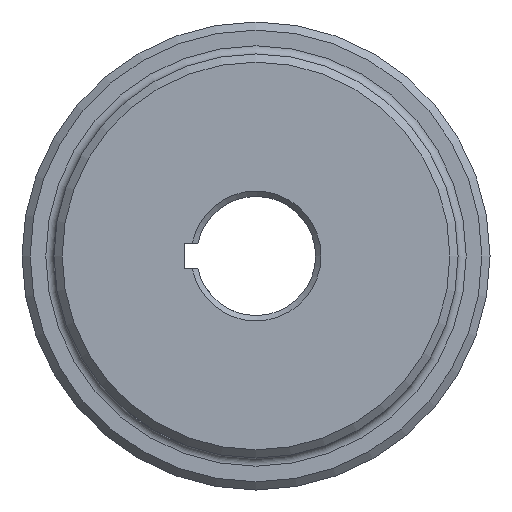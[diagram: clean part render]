
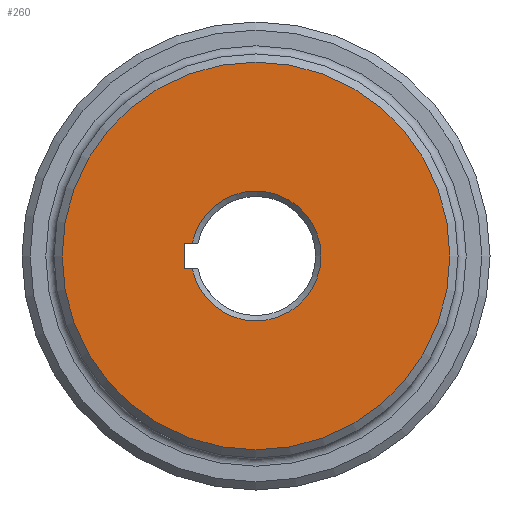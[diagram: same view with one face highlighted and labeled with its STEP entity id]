
A CAD part, left-side view. The second image highlights one B-rep face of the part: STEP entity #260.
In plain terms, the highlighted planar face has unit normal (-1, 0, 0).
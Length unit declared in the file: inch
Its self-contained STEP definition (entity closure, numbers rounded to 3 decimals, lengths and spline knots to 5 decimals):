
#132 = CARTESIAN_POINT ( 'NONE',  ( 0., 0.52735, 0.0935 ) ) ;
#143 = EDGE_LOOP ( 'NONE', ( #635 ) ) ;
#153 = CARTESIAN_POINT ( 'NONE',  ( 0., 0., -0.0935 ) ) ;
#155 = VERTEX_POINT ( 'NONE', #132 ) ;
#218 = AXIS2_PLACEMENT_3D ( 'NONE', #1222, #256, #2315 ) ;
#233 = ORIENTED_EDGE ( 'NONE', *, *, #2007, .F. ) ;
#256 = DIRECTION ( 'NONE',  ( 1., 0., 0. ) ) ;
#260 = ADVANCED_FACE ( 'NONE', ( #1954, #1774 ), #488, .F. ) ;
#314 = CARTESIAN_POINT ( 'NONE',  ( 0., 0.46841, 0.0935 ) ) ;
#375 = DIRECTION ( 'NONE',  ( 1., 0., 0. ) ) ;
#383 = EDGE_CURVE ( 'NONE', #1305, #1305, #1909, .T. ) ;
#437 = CARTESIAN_POINT ( 'NONE',  ( 0., 0., 0.0935 ) ) ;
#444 = DIRECTION ( 'NONE',  ( 0., -1., 0. ) ) ;
#445 = VERTEX_POINT ( 'NONE', #973 ) ;
#488 = PLANE ( 'NONE',  #1356 ) ;
#556 = DIRECTION ( 'NONE',  ( 0., 0., -1. ) ) ;
#635 = ORIENTED_EDGE ( 'NONE', *, *, #383, .T. ) ;
#737 = EDGE_LOOP ( 'NONE', ( #2208, #1101, #2319, #233 ) ) ;
#755 = DIRECTION ( 'NONE',  ( -1., 0., 0. ) ) ;
#790 = CIRCLE ( 'NONE', #218, 0.47765 ) ;
#862 = AXIS2_PLACEMENT_3D ( 'NONE', #975, #755, #1418 ) ;
#870 = CARTESIAN_POINT ( 'NONE',  ( 0., 0., -1.425 ) ) ;
#929 = EDGE_CURVE ( 'NONE', #445, #1098, #2022, .T. ) ;
#953 = VECTOR ( 'NONE', #444, 39.37008 ) ;
#973 = CARTESIAN_POINT ( 'NONE',  ( 0., 0.52735, -0.0935 ) ) ;
#975 = CARTESIAN_POINT ( 'NONE',  ( 0., 0., 0. ) ) ;
#1098 = VERTEX_POINT ( 'NONE', #1294 ) ;
#1101 = ORIENTED_EDGE ( 'NONE', *, *, #1295, .T. ) ;
#1113 = VERTEX_POINT ( 'NONE', #314 ) ;
#1139 = VECTOR ( 'NONE', #1978, 39.37008 ) ;
#1222 = CARTESIAN_POINT ( 'NONE',  ( 0., 0., 0. ) ) ;
#1294 = CARTESIAN_POINT ( 'NONE',  ( 0., 0.46841, -0.0935 ) ) ;
#1295 = EDGE_CURVE ( 'NONE', #1113, #1098, #790, .T. ) ;
#1305 = VERTEX_POINT ( 'NONE', #870 ) ;
#1356 = AXIS2_PLACEMENT_3D ( 'NONE', #2255, #375, #1569 ) ;
#1418 = DIRECTION ( 'NONE',  ( 0., 0., -1. ) ) ;
#1492 = EDGE_CURVE ( 'NONE', #1113, #155, #1632, .T. ) ;
#1569 = DIRECTION ( 'NONE',  ( 0., 0., -1. ) ) ;
#1632 = LINE ( 'NONE', #437, #1139 ) ;
#1774 = FACE_BOUND ( 'NONE', #737, .T. ) ;
#1909 = CIRCLE ( 'NONE', #862, 1.425 ) ;
#1954 = FACE_OUTER_BOUND ( 'NONE', #143, .T. ) ;
#1978 = DIRECTION ( 'NONE',  ( 0., 1., 0. ) ) ;
#2007 = EDGE_CURVE ( 'NONE', #155, #445, #2332, .T. ) ;
#2022 = LINE ( 'NONE', #153, #953 ) ;
#2171 = CARTESIAN_POINT ( 'NONE',  ( 0., 0.52735, -0.0935 ) ) ;
#2208 = ORIENTED_EDGE ( 'NONE', *, *, #1492, .F. ) ;
#2233 = VECTOR ( 'NONE', #556, 39.37008 ) ;
#2255 = CARTESIAN_POINT ( 'NONE',  ( 0., 0., 0. ) ) ;
#2315 = DIRECTION ( 'NONE',  ( 0., 0., -1. ) ) ;
#2319 = ORIENTED_EDGE ( 'NONE', *, *, #929, .F. ) ;
#2332 = LINE ( 'NONE', #2171, #2233 ) ;
